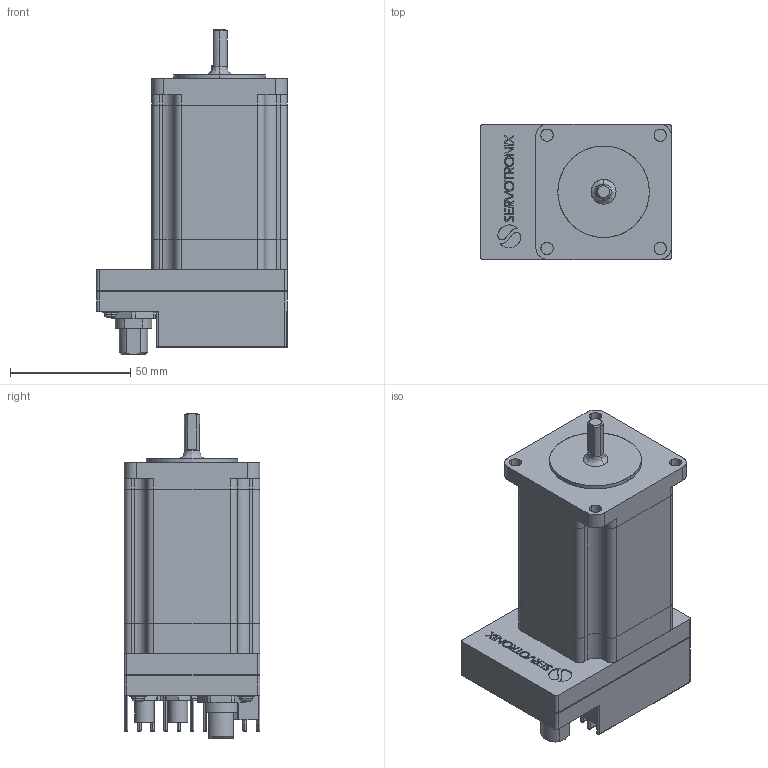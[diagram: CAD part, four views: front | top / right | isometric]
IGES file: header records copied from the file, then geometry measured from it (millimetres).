
Start section: SolidWorks IGES file using analytic representation for surfaces
Global section: file name: C:\Work\Sevotronix\NEMA 23 IP 65\CAD\Model and Drawing for web site\stepIM_IST-23M16CO10-0.IGS; native system: SolidWorks 2013; preprocessor: SolidWorks 2013; author: owner; date: 160403.133016; units: millimetre
Bounding box: 79.4 x 56.4 x 135.6 mm (x, y, z)
Surface area: 83537.8 mm2 (no closed solid volume)
Topology: 0 solids, 0 shells, 1203 faces, 14378 edges, 14378 vertices
Faces by surface type: bspline 646, revolution 557
